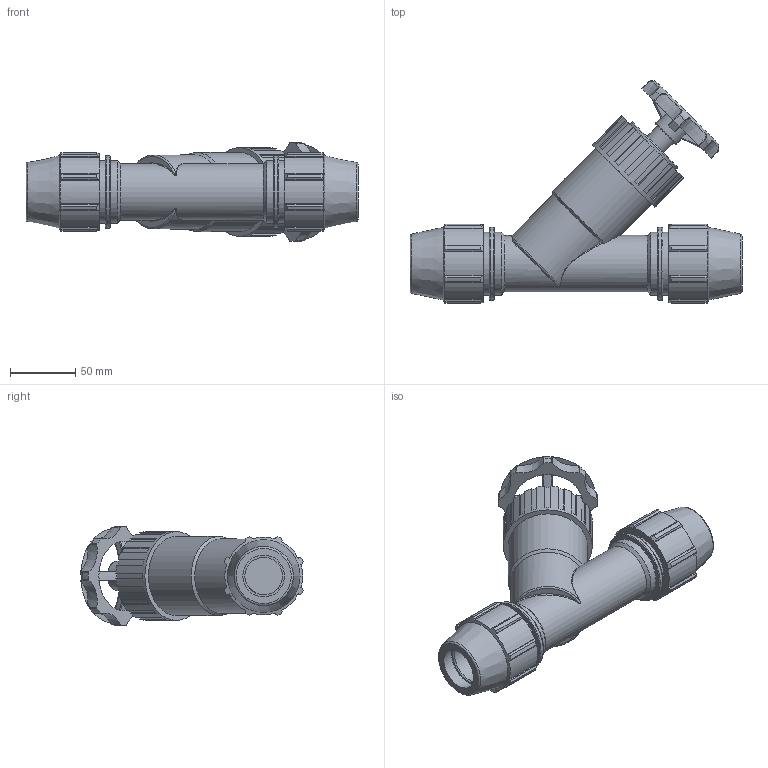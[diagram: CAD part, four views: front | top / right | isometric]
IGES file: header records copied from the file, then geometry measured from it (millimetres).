
Global section: file name: 03046320.ipt; native system: Autodesk Inventor 2015; preprocessor: unknown; author: KIM; date: 20170619.121249; units: millimetre
Bounding box: 254 x 169.95 x 75.59 mm (x, y, z)
Volume: 682597.6 mm3; surface area: 106726.6 mm2
Topology: 1 solids, 1 shells, 357 faces, 1001 edges, 658 vertices
Faces by surface type: plane 161, cylinder 91, bspline 41, revolution 36, cone 28
Full cylindrical faces by diameter (mm): 18.144 x1, 22.68 x1, 43.2 x1, 48 x4, 49.896 x1, 55.68 x2, 60.48 x1, 68.04 x1
